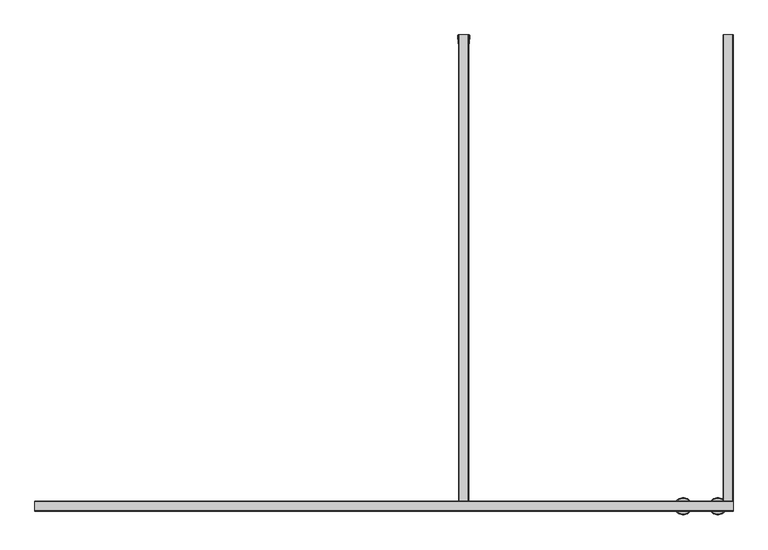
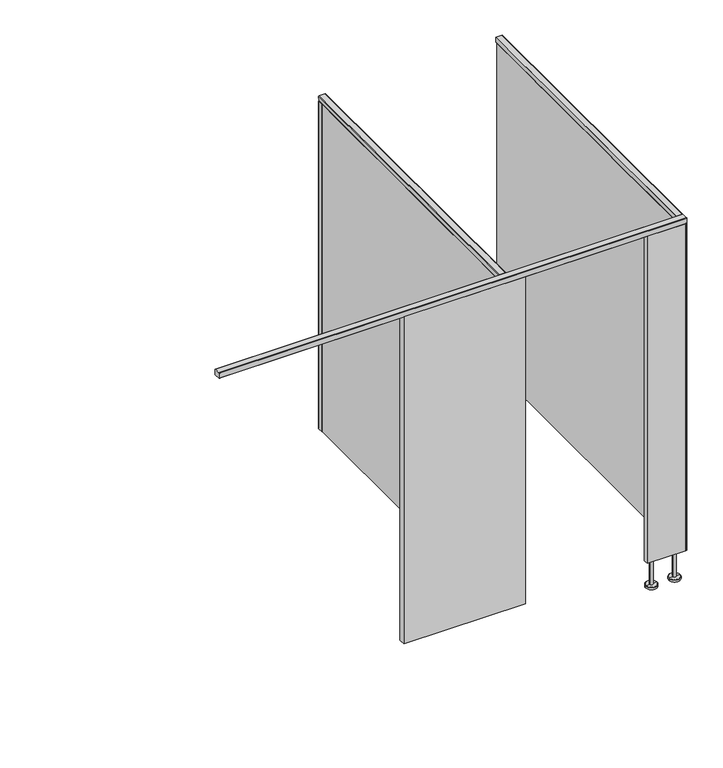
"""IFC4 building model written with IfcOpenShell, lengths in millimetres: proxy geometry, Partition_EuroStyle-Bradley_Corp-ADAStall_1StandardStall-LOFT : Partition_EuroStyle-Bradley_Corp-ADAStall_1StandardStall-LOFT."""

from ifc_helpers import new_model, si_unit, point, frame, frame_2d, origin, place, context, project, spatial, polyline, circle_curve, trimmed, segment, composite_curve, outline, extrude, source, transform, mapped, element, save
from ifc_brep_helpers import plane_surface, cylinder_surface, revolved_surface, advanced_brep


def specialty_equipment_f36be7ab(model_context):
    return source(origin(), model_context, "Body", "SolidModel", [
        extrude(outline(composite_curve([segment(polyline([(1394.518717, -32.5000002), (1394.0103779, -2.02918)]), True, "CONTINUOUS"), segment(trimmed(circle_curve(frame_2d((1396.0395579, -2.02918)), 2.02918), [point((1394.0103779, -2.02918))], [point((1396.0395579, 0.0))], False, "CARTESIAN"), True, "CONTINUOUS"), segment(polyline([(1396.0395579, 0.0), (1433.9807672, 0.0)]), True, "CONTINUOUS"), segment(trimmed(circle_curve(frame_2d((1433.9807672, -2.02918)), 2.02918), [point((1433.9807672, 0.0))], [point((1436.0099473, -2.02918))], False, "CARTESIAN"), True, "CONTINUOUS"), segment(polyline([(1436.0099473, -2.02918), (1435.5016081, -32.5000002), (1434.0030225, -32.5000002)]), True, "CONTINUOUS"), segment(trimmed(circle_curve(frame_2d((1434.0065899, -31.5009082)), 0.9990984), [point((1434.0030225, -32.5000002))], [point((1433.5329373, -30.6212202))], False, "CARTESIAN"), True, "CONTINUOUS"), segment(polyline([(1433.5329373, -30.6212202), (1433.6540473, -23.3575702)]), True, "CONTINUOUS"), segment(trimmed(circle_curve(frame_2d((1434.1715932, -22.5000551)), 1.0015917), [point((1433.6540473, -23.3575702))], [point((1433.6824961, -21.6260013))], False, "CARTESIAN"), True, "CONTINUOUS"), segment(polyline([(1433.6824961, -21.6260013), (1433.9765475, -4.0)]), True, "CONTINUOUS"), segment(trimmed(circle_curve(frame_2d((1431.9768528, -3.9990939)), 1.9996948), [point((1433.9765475, -4.0))], [point((1431.9278332, -2.0))], True, "CARTESIAN"), True, "CONTINUOUS"), segment(polyline([(1431.9278332, -2.0), (1398.0435342, -2.0)]), True, "CONTINUOUS"), segment(trimmed(circle_curve(frame_2d((1398.0435342, -4.0002204)), 2.0002204), [point((1398.0435342, -2.0))], [point((1396.0433424, -3.9895469))], True, "CARTESIAN"), True, "CONTINUOUS"), segment(polyline([(1396.0433424, -3.9895469), (1396.3373979, -21.6257602)]), True, "CONTINUOUS"), segment(trimmed(circle_curve(frame_2d((1395.848732, -22.5000551)), 1.0015917), [point((1396.3373979, -21.6257602))], [point((1396.3662779, -23.3575702))], False, "CARTESIAN"), True, "CONTINUOUS"), segment(polyline([(1396.3662779, -23.3575702), (1396.4873879, -30.6212202)]), True, "CONTINUOUS"), segment(trimmed(circle_curve(frame_2d((1396.0137352, -31.5009082)), 0.9990984), [point((1396.4873879, -30.6212202))], [point((1396.0173026, -32.5000002))], False, "CARTESIAN"), True, "CONTINUOUS"), segment(polyline([(1396.0173026, -32.5000002), (1394.518717, -32.5000002)]), True, "CONTINUOUS")], self_intersect=False)), frame((0.0, 0.0, 150.0), z_axis=(0.0, 0.0, 1.0), x_axis=(1.0, 0.0, 0.0)), (0.0, 0.0, 1.0), 1855.0),
        extrude(outline(composite_curve([segment(polyline([(2032.9666591, 2347.4203701), (2005.7492965, 2347.8741806)]), True, "CONTINUOUS"), segment(trimmed(circle_curve(frame_2d((2005.762, 2348.6360747)), 0.762), [point((2005.7492965, 2347.8741806))], [point((2005.0, 2348.6360747))], False, "CARTESIAN"), True, "CONTINUOUS"), segment(polyline([(2005.0, 2348.6360747), (2005.0, 2382.1733505)]), True, "CONTINUOUS"), segment(trimmed(circle_curve(frame_2d((2005.79375, 2382.1733505)), 0.79375), [point((2005.0, 2382.1733505))], [point((2005.7805172, 2382.9669902))], False, "CARTESIAN"), True, "CONTINUOUS"), segment(polyline([(2005.7805172, 2382.9669902), (2032.9666591, 2383.4202802)]), True, "CONTINUOUS"), segment(trimmed(circle_curve(frame_2d((2033.0000015, 2381.4205597)), 1.9999985), [point((2032.9666591, 2383.4202802))], [point((2035.0, 2381.4205597))], False, "CARTESIAN"), True, "CONTINUOUS"), segment(polyline([(2035.0, 2381.4205597), (2035.0, 2349.4200907)]), True, "CONTINUOUS"), segment(trimmed(circle_curve(frame_2d((2033.0000015, 2349.4200907)), 1.9999985), [point((2035.0, 2349.4200907))], [point((2032.9666591, 2347.4203701))], False, "CARTESIAN"), True, "CONTINUOUS")], self_intersect=False)), frame((0.0, -1676.4, 0.0), z_axis=(0.0, 1.0, 0.0), x_axis=(0.0, 0.0, 1.0)), (0.0, 0.0, 1.0), 1676.4),
        extrude(outline(composite_curve([segment(polyline([(-1676.3996998, 2032.9666591), (-1676.8535103, 2005.7492965)]), True, "CONTINUOUS"), segment(trimmed(circle_curve(frame_2d((-1677.6154044, 2005.762)), 0.762), [point((-1676.8535103, 2005.7492965))], [point((-1677.6154044, 2005.0))], False, "CARTESIAN"), True, "CONTINUOUS"), segment(polyline([(-1677.6154044, 2005.0), (-1711.1526802, 2005.0)]), True, "CONTINUOUS"), segment(trimmed(circle_curve(frame_2d((-1711.1526802, 2005.79375)), 0.79375), [point((-1711.1526802, 2005.0))], [point((-1711.9463199, 2005.7805172))], False, "CARTESIAN"), True, "CONTINUOUS"), segment(polyline([(-1711.9463199, 2005.7805172), (-1712.3996099, 2032.9666591)]), True, "CONTINUOUS"), segment(trimmed(circle_curve(frame_2d((-1710.3998894, 2033.0000015)), 1.9999985), [point((-1712.3996099, 2032.9666591))], [point((-1710.3998894, 2035.0))], False, "CARTESIAN"), True, "CONTINUOUS"), segment(polyline([(-1710.3998894, 2035.0), (-1678.3994204, 2035.0)]), True, "CONTINUOUS"), segment(trimmed(circle_curve(frame_2d((-1678.3994204, 2033.0000015)), 1.9999985), [point((-1678.3994204, 2035.0))], [point((-1676.3996998, 2032.9666591))], False, "CARTESIAN"), True, "CONTINUOUS")], self_intersect=False)), frame((-127.0, 0.0, 0.0), z_axis=(1.0, 0.0, 0.0), x_axis=(0.0, 1.0, 0.0)), (0.0, 0.0, 1.0), 2510.4203251),
        extrude(outline(composite_curve([segment(polyline([(2032.9666591, 1397.0102076), (2005.7492965, 1397.4640181)]), True, "CONTINUOUS"), segment(trimmed(circle_curve(frame_2d((2005.762, 1398.2259122)), 0.762), [point((2005.7492965, 1397.4640181))], [point((2005.0, 1398.2259122))], False, "CARTESIAN"), True, "CONTINUOUS"), segment(polyline([(2005.0, 1398.2259122), (2005.0, 1431.763188)]), True, "CONTINUOUS"), segment(trimmed(circle_curve(frame_2d((2005.79375, 1431.763188)), 0.79375), [point((2005.0, 1431.763188))], [point((2005.7805172, 1432.5568277))], False, "CARTESIAN"), True, "CONTINUOUS"), segment(polyline([(2005.7805172, 1432.5568277), (2032.9666591, 1433.0101176)]), True, "CONTINUOUS"), segment(trimmed(circle_curve(frame_2d((2033.0000015, 1431.0103971)), 1.9999985), [point((2032.9666591, 1433.0101176))], [point((2035.0, 1431.0103971))], False, "CARTESIAN"), True, "CONTINUOUS"), segment(polyline([(2035.0, 1431.0103971), (2035.0, 1399.0099281)]), True, "CONTINUOUS"), segment(trimmed(circle_curve(frame_2d((2033.0000015, 1399.0099281)), 1.9999985), [point((2035.0, 1399.0099281))], [point((2032.9666591, 1397.0102076))], False, "CARTESIAN"), True, "CONTINUOUS")], self_intersect=False)), frame((0.0, -1676.4, 0.0), z_axis=(0.0, 1.0, 0.0), x_axis=(0.0, 0.0, 1.0)), (0.0, 0.0, 1.0), 1676.4),
        advanced_brep(
        [(2319.3703255, -1694.3996549, 150.0000008), (2337.3703248, -1694.3996549, 150.0000008), (2337.3703248, -1694.3996549, 12.0000001), (2319.3703255, -1694.3996549, 12.0000001), (2328.3703251, -1694.3996549, 150.0000008), (2297.3703262, -1694.3996549, 0.0), (2359.3703241, -1694.3996549, 0.0), (2328.3703251, -1694.3996549, 0.0), (2297.3703262, -1694.3996549, 10.0000001), (2359.3703241, -1694.3996549, 10.0000001), (2299.3727381, -1694.3996549, 12.0000001), (2357.3679122, -1694.3996549, 12.0000001)],
        [
            (0, 1, circle_curve(frame((2328.3703251, -1694.3996549, 150.0000008), z_axis=(0.0, 0.0, -1.0), x_axis=(1.0, 0.0, 0.0)), 8.9999997)),
            (1, 2),
            (2, 3, circle_curve(frame((2328.3703251, -1694.3996549, 12.0000001), z_axis=(0.0, 0.0, 1.0), x_axis=(1.0, 0.0, 0.0)), 8.9999997)),
            (3, 0),
            (1, 0, circle_curve(frame((2328.3703251, -1694.3996549, 150.0000008), z_axis=(0.0, 0.0, -1.0), x_axis=(1.0, 0.0, 0.0)), 8.9999997)),
            (3, 2, circle_curve(frame((2328.3703251, -1694.3996549, 12.0000001), z_axis=(0.0, 0.0, 1.0), x_axis=(1.0, 0.0, 0.0)), 8.9999997)),
            (4, 1),
            (0, 4),
            (5, 6, circle_curve(frame((2328.3703251, -1694.3996549, 0.0), z_axis=(0.0, 0.0, -1.0), x_axis=(1.0, 0.0, 0.0)), 30.9999989)),
            (6, 7),
            (7, 5),
            (6, 5, circle_curve(frame((2328.3703251, -1694.3996549, 0.0), z_axis=(0.0, 0.0, -1.0), x_axis=(1.0, 0.0, 0.0)), 30.9999989)),
            (8, 9, circle_curve(frame((2328.3703251, -1694.3996549, 10.0000001), z_axis=(0.0, 0.0, -1.0), x_axis=(1.0, 0.0, 0.0)), 30.9999989)),
            (9, 6),
            (5, 8),
            (9, 8, circle_curve(frame((2328.3703251, -1694.3996549, 10.0000001), z_axis=(0.0, 0.0, -1.0), x_axis=(1.0, 0.0, 0.0)), 30.9999989)),
            (10, 11, circle_curve(frame((2328.3703251, -1694.3996549, 12.0000001), z_axis=(0.0, 0.0, -1.0), x_axis=(1.0, 0.0, 0.0)), 28.997587)),
            (11, 9),
            (8, 10),
            (11, 10, circle_curve(frame((2328.3703251, -1694.3996549, 12.0000001), z_axis=(0.0, 0.0, -1.0), x_axis=(1.0, 0.0, 0.0)), 28.997587)),
            (2, 11),
            (10, 3),
        ],
        [
            cylinder_surface(frame((2328.3703251, -1694.3996549, 0.0), z_axis=(0.0, 0.0, 1.0), x_axis=(1.0, 0.0, 0.0)), 8.9999997),
            plane_surface(frame((2328.3703251, -1694.3996549, 150.0000008), z_axis=(0.0, 0.0, 1.0), x_axis=(1.0, 0.0, 0.0))),
            plane_surface(frame((2328.3703251, -1694.3996549, 0.0), z_axis=(0.0, 0.0, -1.0), x_axis=(1.0, 0.0, 0.0))),
            cylinder_surface(frame((2328.3703251, -1694.3996549, 0.0), z_axis=(0.0, 0.0, 1.0), x_axis=(1.0, 0.0, 0.0)), 30.9999989),
            revolved_surface(polyline([(2359.3703241, -1694.3996549, 10.0000001), (2357.3679122, -1694.3996549, 12.0000001)]), (2328.3703251, -1694.3996549, 0.0), (0.0, 0.0, 1.0)),
            plane_surface(frame((2328.3703251, -1694.3996549, 12.0000001), z_axis=(0.0, 0.0, 1.0), x_axis=(1.0, 0.0, 0.0))),
        ],
        [
            (0, [[1, 2, 3, 4]]),
            (0, [[5, -4, 6, -2]]),
            (1, [[7, -1, 8]]),
            (1, [[-8, -5, -7]]),
            (2, [[9, 10, 11]]),
            (2, [[12, -11, -10]]),
            (3, [[13, 14, -9, 15]]),
            (3, [[16, -15, -12, -14]]),
            (4, [[17, 18, -13, 19]]),
            (4, [[20, -19, -16, -18]]),
            (5, [[-3, 21, -17, 22]]),
            (5, [[-6, -22, -20, -21]]),
        ],
    ),
        advanced_brep(
        [(2195.0453255, -1694.3996549, 150.0000008), (2213.0453248, -1694.3996549, 150.0000008), (2213.0453248, -1694.3996549, 12.0000001), (2195.0453255, -1694.3996549, 12.0000001), (2204.0453251, -1694.3996549, 150.0000008), (2173.0453262, -1694.3996549, 0.0), (2235.0453241, -1694.3996549, 0.0), (2204.0453251, -1694.3996549, 0.0), (2173.0453262, -1694.3996549, 10.0000001), (2235.0453241, -1694.3996549, 10.0000001), (2175.0477381, -1694.3996549, 12.0000001), (2233.0429122, -1694.3996549, 12.0000001)],
        [
            (0, 1, circle_curve(frame((2204.0453251, -1694.3996549, 150.0000008), z_axis=(0.0, 0.0, -1.0), x_axis=(1.0, 0.0, 0.0)), 8.9999997)),
            (1, 2),
            (2, 3, circle_curve(frame((2204.0453251, -1694.3996549, 12.0000001), z_axis=(0.0, 0.0, 1.0), x_axis=(1.0, 0.0, 0.0)), 8.9999997)),
            (3, 0),
            (1, 0, circle_curve(frame((2204.0453251, -1694.3996549, 150.0000008), z_axis=(0.0, 0.0, -1.0), x_axis=(1.0, 0.0, 0.0)), 8.9999997)),
            (3, 2, circle_curve(frame((2204.0453251, -1694.3996549, 12.0000001), z_axis=(0.0, 0.0, 1.0), x_axis=(1.0, 0.0, 0.0)), 8.9999997)),
            (4, 1),
            (0, 4),
            (5, 6, circle_curve(frame((2204.0453251, -1694.3996549, 0.0), z_axis=(0.0, 0.0, -1.0), x_axis=(1.0, 0.0, 0.0)), 30.9999989)),
            (6, 7),
            (7, 5),
            (6, 5, circle_curve(frame((2204.0453251, -1694.3996549, 0.0), z_axis=(0.0, 0.0, -1.0), x_axis=(1.0, 0.0, 0.0)), 30.9999989)),
            (8, 9, circle_curve(frame((2204.0453251, -1694.3996549, 10.0000001), z_axis=(0.0, 0.0, -1.0), x_axis=(1.0, 0.0, 0.0)), 30.9999989)),
            (9, 6),
            (5, 8),
            (9, 8, circle_curve(frame((2204.0453251, -1694.3996549, 10.0000001), z_axis=(0.0, 0.0, -1.0), x_axis=(1.0, 0.0, 0.0)), 30.9999989)),
            (10, 11, circle_curve(frame((2204.0453251, -1694.3996549, 12.0000001), z_axis=(0.0, 0.0, -1.0), x_axis=(1.0, 0.0, 0.0)), 28.997587)),
            (11, 9),
            (8, 10),
            (11, 10, circle_curve(frame((2204.0453251, -1694.3996549, 12.0000001), z_axis=(0.0, 0.0, -1.0), x_axis=(1.0, 0.0, 0.0)), 28.997587)),
            (2, 11),
            (10, 3),
        ],
        [
            cylinder_surface(frame((2204.0453251, -1694.3996549, 0.0), z_axis=(0.0, 0.0, 1.0), x_axis=(1.0, 0.0, 0.0)), 8.9999997),
            plane_surface(frame((2204.0453251, -1694.3996549, 150.0000008), z_axis=(0.0, 0.0, 1.0), x_axis=(1.0, 0.0, 0.0))),
            plane_surface(frame((2204.0453251, -1694.3996549, 0.0), z_axis=(0.0, 0.0, -1.0), x_axis=(1.0, 0.0, 0.0))),
            cylinder_surface(frame((2204.0453251, -1694.3996549, 0.0), z_axis=(0.0, 0.0, 1.0), x_axis=(1.0, 0.0, 0.0)), 30.9999989),
            revolved_surface(polyline([(2235.0453241, -1694.3996549, 10.0000001), (2233.0429122, -1694.3996549, 12.0000001)]), (2204.0453251, -1694.3996549, 0.0), (0.0, 0.0, 1.0)),
            plane_surface(frame((2204.0453251, -1694.3996549, 12.0000001), z_axis=(0.0, 0.0, 1.0), x_axis=(1.0, 0.0, 0.0))),
        ],
        [
            (0, [[1, 2, 3, 4]]),
            (0, [[5, -4, 6, -2]]),
            (1, [[7, -1, 8]]),
            (1, [[-8, -5, -7]]),
            (2, [[9, 10, 11]]),
            (2, [[12, -11, -10]]),
            (3, [[13, 14, -9, 15]]),
            (3, [[16, -15, -12, -14]]),
            (4, [[17, 18, -13, 19]]),
            (4, [[20, -19, -16, -18]]),
            (5, [[-3, 21, -17, 22]]),
            (5, [[-6, -22, -20, -21]]),
        ],
    ),
        extrude(outline(polyline([(1517.0170903, -1676.4), (1517.0170903, -1712.3996549), (866.1, -1712.3996549), (866.1, -1676.4), (1517.0170903, -1676.4)])), frame((0.0, 0.0, 150.0), z_axis=(0.0, 0.0, 1.0), x_axis=(1.0, 0.0, 0.0)), (0.0, 0.0, 1.0), 1855.0),
        extrude(outline(polyline([(2383.4203251, -1707.6473174), (2383.4203251, -1712.3996099), (2378.6578251, -1712.3996099), (2378.6578251, -1707.6473174), (2383.4203251, -1707.6473174)])), frame((0.0, 0.0, 150.0), z_axis=(0.0, 0.0, 1.0), x_axis=(1.0, 0.0, 0.0)), (0.0, 0.0, 1.0), 1855.0),
        extrude(outline(polyline([(2172.1201766, -1687.0098174), (2182.5305201, -1687.0098174), (2182.5305201, -1676.4), (2347.4105077, -1676.4), (2378.6578251, -1707.6473174), (2378.6578251, -1712.3996549), (2172.1201766, -1712.3996549), (2172.1201766, -1687.0098174)])), frame((0.0, 0.0, 150.0), z_axis=(0.0, 0.0, 1.0), x_axis=(1.0, 0.0, 0.0)), (0.0, 0.0, 1.0), 1855.0),
        extrude(outline(polyline([(2347.4203251, -1676.4098174), (2347.4203251, -9.9993891), (2383.4203251, -9.9993891), (2383.4203251, -1707.6473174), (2378.6578251, -1707.6473174), (2347.4203251, -1676.4098174)])), frame((0.0, 0.0, 150.0), z_axis=(0.0, 0.0, 1.0), x_axis=(1.0, 0.0, 0.0)), (0.0, 0.0, 1.0), 1855.0),
        extrude(outline(polyline([(1397.0, -1666.494), (1397.0, -9.9993891), (1433.0203251, -9.9993891), (1433.0203251, -1666.494), (1397.0, -1666.494)])), frame((0.0, 0.0, 150.0), z_axis=(0.0, 0.0, 1.0), x_axis=(1.0, 0.0, 0.0)), (0.0, 0.0, 1.0), 1855.0),
    ])


if __name__ == "__main__":
    model = new_model("IFC4")
    model_context = context("Model", 3, world=origin())
    ifc_project = project(units=[si_unit("LENGTHUNIT", "METRE", prefix="MILLI")], contexts=[model_context])
    site = spatial("IfcSite", under=ifc_project)
    building = spatial("IfcBuilding", under=site)
    placement = place(None, origin())
    specialty_equipment_shape = specialty_equipment_f36be7ab(model_context)
    element("IfcBuildingElementProxy", 1, Name="Partition_EuroStyle-Bradley_Corp-ADAStall_1StandardStall-LOFT : Partition_EuroStyle-Bradley_Corp-ADAStall_1StandardStall-LOFT", ObjectType="Partition_EuroStyle-Bradley_Corp-ADAStall_1StandardStall-LOFT : Partition_EuroStyle-Bradley_Corp-ADAStall_1StandardStall-LOFT", at=placement, inside=building, context=model_context, shape_type="MappedRepresentation", body=[
        mapped(specialty_equipment_shape, transform((0.0, 0.0, 0.0), x_axis=(1.0, 0.0, 0.0), y_axis=(0.0, 1.0, 0.0), z_axis=(0.0, 0.0, 1.0))),
    ])
    save(model, "model.ifc")
